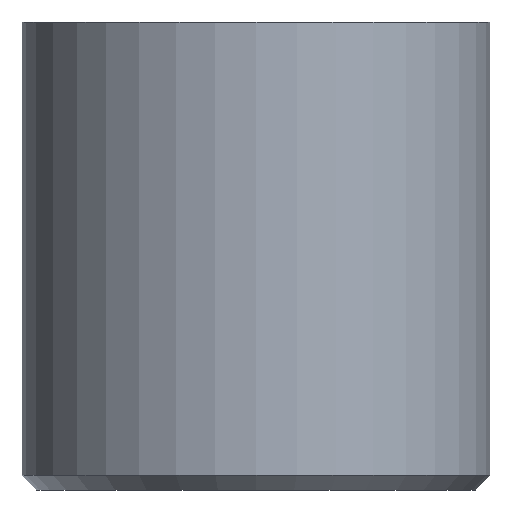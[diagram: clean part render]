
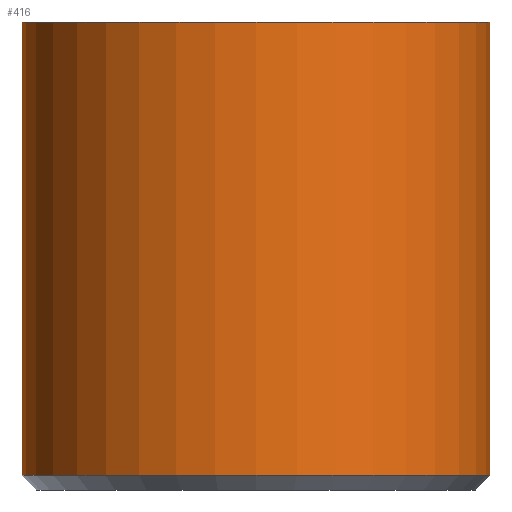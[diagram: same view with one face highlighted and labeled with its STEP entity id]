
A CAD part, front view. The second image highlights one B-rep face of the part: STEP entity #416.
In plain terms, the highlighted cylindrical face has radius 8 mm (diameter 16 mm), a partial arc.
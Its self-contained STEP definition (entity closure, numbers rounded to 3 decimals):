
#51 = CIRCLE ( 'NONE', #612, 8. ) ;
#69 = VECTOR ( 'NONE', #1834, 1000. ) ;
#96 = LINE ( 'NONE', #1845, #69 ) ;
#114 = EDGE_CURVE ( 'NONE', #1697, #1485, #96, .T. ) ;
#186 = FACE_OUTER_BOUND ( 'NONE', #369, .T. ) ;
#320 = VERTEX_POINT ( 'NONE', #1567 ) ;
#347 = EDGE_CURVE ( 'NONE', #1697, #1323, #51, .T. ) ;
#369 = EDGE_LOOP ( 'NONE', ( #849, #603, #2008, #799 ) ) ;
#416 = ADVANCED_FACE ( 'NONE', ( #186 ), #1363, .T. ) ;
#474 = AXIS2_PLACEMENT_3D ( 'NONE', #1259, #1036, #605 ) ;
#548 = EDGE_CURVE ( 'NONE', #1323, #320, #1933, .T. ) ;
#603 = ORIENTED_EDGE ( 'NONE', *, *, #347, .T. ) ;
#605 = DIRECTION ( 'NONE',  ( 1., 0., 0. ) ) ;
#612 = AXIS2_PLACEMENT_3D ( 'NONE', #1486, #1477, #1473 ) ;
#682 = DIRECTION ( 'NONE',  ( 0., 0., 1. ) ) ;
#715 = CARTESIAN_POINT ( 'NONE',  ( 8., 0., 0. ) ) ;
#799 = ORIENTED_EDGE ( 'NONE', *, *, #1671, .F. ) ;
#849 = ORIENTED_EDGE ( 'NONE', *, *, #114, .F. ) ;
#1036 = DIRECTION ( 'NONE',  ( 0., 0., 1. ) ) ;
#1227 = DIRECTION ( 'NONE',  ( 1., 0., 0. ) ) ;
#1259 = CARTESIAN_POINT ( 'NONE',  ( 0., 0., 0. ) ) ;
#1274 = DIRECTION ( 'NONE',  ( 0., 0., 1. ) ) ;
#1286 = CARTESIAN_POINT ( 'NONE',  ( 0., 0., 0. ) ) ;
#1293 = AXIS2_PLACEMENT_3D ( 'NONE', #1286, #1274, #1227 ) ;
#1323 = VERTEX_POINT ( 'NONE', #1690 ) ;
#1351 = CIRCLE ( 'NONE', #474, 8. ) ;
#1363 = CYLINDRICAL_SURFACE ( 'NONE', #1293, 8. ) ;
#1469 = CARTESIAN_POINT ( 'NONE',  ( -8., 0., 0. ) ) ;
#1473 = DIRECTION ( 'NONE',  ( 1., 0., 0. ) ) ;
#1477 = DIRECTION ( 'NONE',  ( 0., 0., 1. ) ) ;
#1485 = VERTEX_POINT ( 'NONE', #1469 ) ;
#1486 = CARTESIAN_POINT ( 'NONE',  ( 0., 0., -15.5 ) ) ;
#1567 = CARTESIAN_POINT ( 'NONE',  ( 8., 0., 0. ) ) ;
#1623 = CARTESIAN_POINT ( 'NONE',  ( -8., 0., -15.5 ) ) ;
#1671 = EDGE_CURVE ( 'NONE', #1485, #320, #1351, .T. ) ;
#1690 = CARTESIAN_POINT ( 'NONE',  ( 8., 0., -15.5 ) ) ;
#1697 = VERTEX_POINT ( 'NONE', #1623 ) ;
#1834 = DIRECTION ( 'NONE',  ( 0., 0., 1. ) ) ;
#1845 = CARTESIAN_POINT ( 'NONE',  ( -8., 0., 0. ) ) ;
#1901 = VECTOR ( 'NONE', #682, 1000. ) ;
#1933 = LINE ( 'NONE', #715, #1901 ) ;
#2008 = ORIENTED_EDGE ( 'NONE', *, *, #548, .T. ) ;
